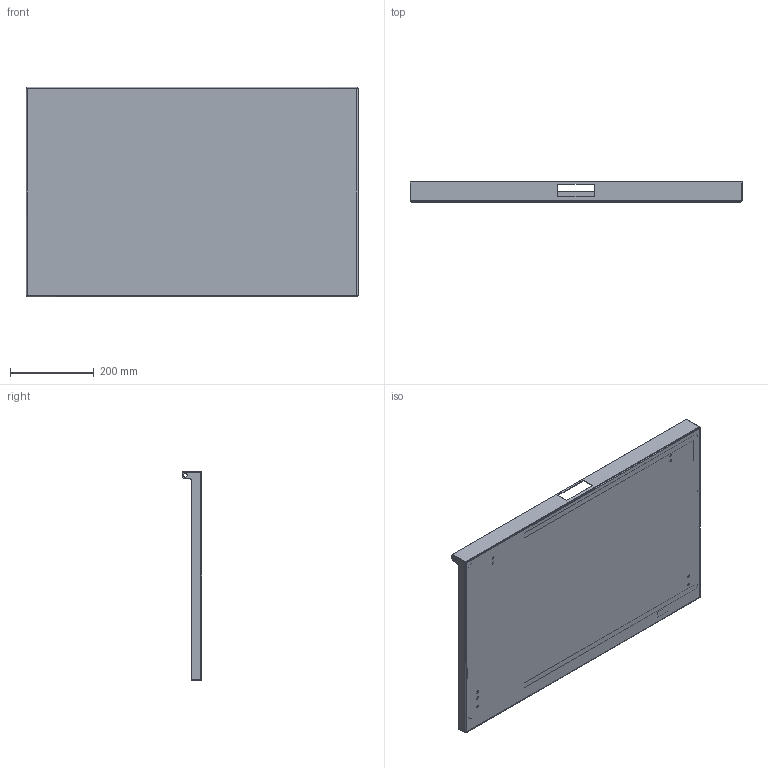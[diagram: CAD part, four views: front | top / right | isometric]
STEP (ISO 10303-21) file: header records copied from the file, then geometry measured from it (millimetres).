
FILE_DESCRIPTION (( 'STEP AP203' ), '1' );
FILE_NAME ('MPLS082_V1.STEP', '2018-03-28T08:25:51', ( '' ), ( '' ), 'SwSTEP 2.0', 'SolidWorks 2017', '' );
FILE_SCHEMA (( 'CONFIG_CONTROL_DESIGN' ));
Length unit declared in the file: millimetre
Products named in the file (2): MPLS082_V1
Bounding box: 793 x 47 x 500 mm (x, y, z)
Volume: 1099323.5 mm3; surface area: 1035134.7 mm2
Topology: 13 solids, 13 shells, 201 faces, 426 edges, 268 vertices
Faces by surface type: cylinder 88, plane 83, cone 18, bspline 8, torus 4
Entity records: 5975 total; most frequent: CARTESIAN_POINT 1369, DIRECTION 988, ORIENTED_EDGE 852, EDGE_CURVE 426, AXIS2_PLACEMENT_3D 383, VERTEX_POINT 268, EDGE_LOOP 230, LINE 222
